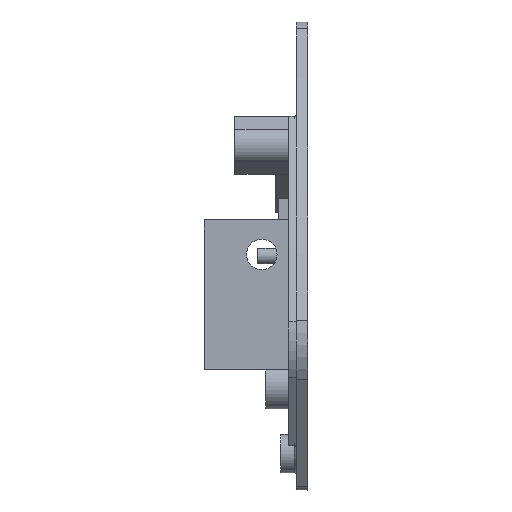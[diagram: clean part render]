
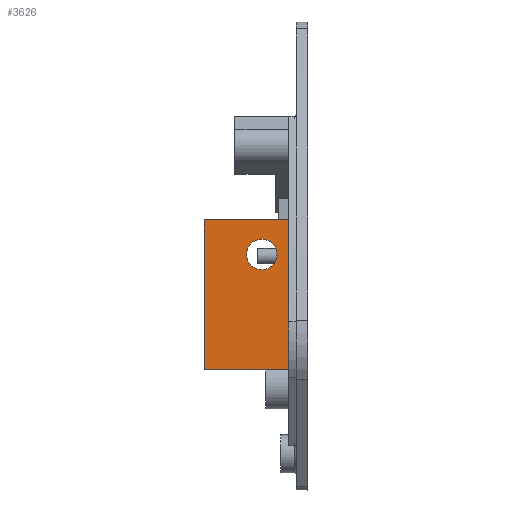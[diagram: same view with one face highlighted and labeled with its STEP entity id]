
A CAD part, left-side view. The second image highlights one B-rep face of the part: STEP entity #3626.
In plain terms, the highlighted planar face has unit normal (-1, 0, 0).
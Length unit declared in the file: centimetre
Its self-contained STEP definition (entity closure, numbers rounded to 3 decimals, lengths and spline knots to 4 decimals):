
#275=LINE('',#6021,#594);
#316=LINE('',#6155,#635);
#317=LINE('',#6158,#636);
#318=LINE('',#6159,#637);
#594=VECTOR('',#4793,0.1);
#635=VECTOR('',#4910,0.1);
#636=VECTOR('',#4913,0.1);
#637=VECTOR('',#4914,0.1);
#761=PLANE('',#3990);
#829=FACE_BOUND('',#1212,.T.);
#978=FACE_OUTER_BOUND('',#1211,.T.);
#1211=EDGE_LOOP('',(#2947,#2948,#2949,#2950));
#1212=EDGE_LOOP('',(#2951));
#1457=CIRCLE('',#3991,0.4);
#1740=VERTEX_POINT('',#6014);
#1742=VERTEX_POINT('',#6020);
#1783=VERTEX_POINT('',#6153);
#1784=VERTEX_POINT('',#6157);
#1785=VERTEX_POINT('',#6160);
#2178=EDGE_CURVE('',#1740,#1742,#275,.F.);
#2240=EDGE_CURVE('',#1740,#1783,#316,.T.);
#2241=EDGE_CURVE('',#1784,#1783,#317,.T.);
#2242=EDGE_CURVE('',#1742,#1784,#318,.T.);
#2243=EDGE_CURVE('',#1785,#1785,#1457,.T.);
#2947=ORIENTED_EDGE('',*,*,#2240,.T.);
#2948=ORIENTED_EDGE('',*,*,#2241,.F.);
#2949=ORIENTED_EDGE('',*,*,#2242,.F.);
#2950=ORIENTED_EDGE('',*,*,#2178,.F.);
#2951=ORIENTED_EDGE('',*,*,#2243,.F.);
#3626=ADVANCED_FACE('',(#978,#829),#761,.T.);
#3990=AXIS2_PLACEMENT_3D('',#6156,#4911,#4912);
#3991=AXIS2_PLACEMENT_3D('',#6161,#4915,#4916);
#4793=DIRECTION('',(0.,0.,1.));
#4910=DIRECTION('',(0.,1.,0.));
#4911=DIRECTION('center_axis',(-1.,0.,0.));
#4912=DIRECTION('ref_axis',(0.,-1.,0.));
#4913=DIRECTION('',(0.,0.,1.));
#4914=DIRECTION('',(0.,1.,0.));
#4915=DIRECTION('center_axis',(-1.,0.,0.));
#4916=DIRECTION('ref_axis',(0.,1.,0.));
#6014=CARTESIAN_POINT('',(-1.8737,-0.8458,-2.3571));
#6020=CARTESIAN_POINT('',(-1.8737,-0.8458,-6.2571));
#6021=CARTESIAN_POINT('',(-1.8737,-0.8458,-3.2943));
#6153=CARTESIAN_POINT('',(-1.8737,1.5042,-2.3571));
#6155=CARTESIAN_POINT('',(-1.8737,0.3292,-2.3571));
#6156=CARTESIAN_POINT('Origin',(-1.8737,0.,0.));
#6157=CARTESIAN_POINT('',(-1.8737,1.5042,-6.2571));
#6158=CARTESIAN_POINT('',(-1.8737,1.5042,-4.3071));
#6159=CARTESIAN_POINT('',(-1.8737,0.3292,-6.2571));
#6160=CARTESIAN_POINT('',(-1.8737,0.4042,-3.2571));
#6161=CARTESIAN_POINT('Origin',(-1.8737,0.0042,-3.2571));
